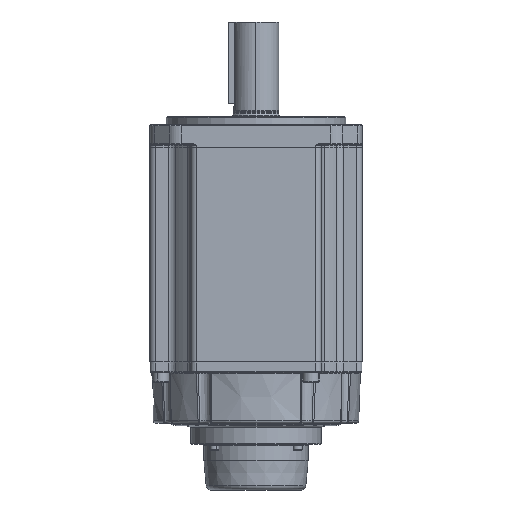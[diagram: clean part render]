
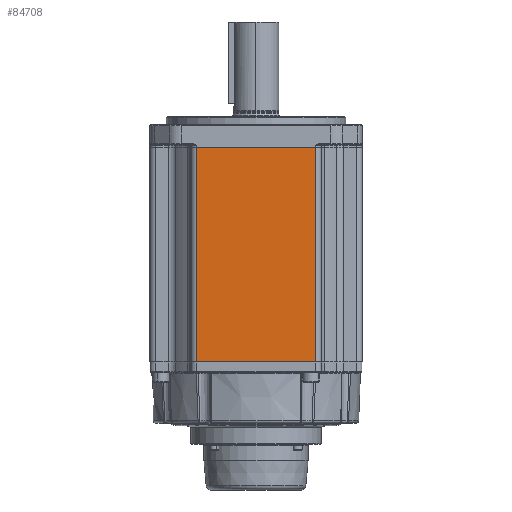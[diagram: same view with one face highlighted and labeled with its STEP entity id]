
A CAD part, front view. The second image highlights one B-rep face of the part: STEP entity #84708.
In plain terms, the highlighted planar face has unit normal (0, -1, 0).
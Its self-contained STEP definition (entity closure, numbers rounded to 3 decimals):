
#1388 = DIRECTION ( 'NONE',  ( -1., 0., 0. ) ) ;
#2490 = EDGE_CURVE ( 'NONE', #43472, #35393, #47443, .T. ) ;
#5963 = ORIENTED_EDGE ( 'NONE', *, *, #104999, .F. ) ;
#8336 = CARTESIAN_POINT ( 'NONE',  ( -36.401, -65., 131.4 ) ) ;
#17876 = VECTOR ( 'NONE', #37680, 1000. ) ;
#21148 = VECTOR ( 'NONE', #43079, 1000. ) ;
#27608 = CARTESIAN_POINT ( 'NONE',  ( 36.401, -65., 131.4 ) ) ;
#30466 = PLANE ( 'NONE',  #111871 ) ;
#32279 = FACE_OUTER_BOUND ( 'NONE', #40177, .T. ) ;
#32415 = ORIENTED_EDGE ( 'NONE', *, *, #72131, .F. ) ;
#35393 = VERTEX_POINT ( 'NONE', #8336 ) ;
#36154 = DIRECTION ( 'NONE',  ( 0., 0., -1. ) ) ;
#37680 = DIRECTION ( 'NONE',  ( -1., 0., 0. ) ) ;
#40177 = EDGE_LOOP ( 'NONE', ( #5963, #32415, #42121, #50103 ) ) ;
#42121 = ORIENTED_EDGE ( 'NONE', *, *, #2490, .T. ) ;
#42670 = CARTESIAN_POINT ( 'NONE',  ( 36.401, -65., 131.4 ) ) ;
#43079 = DIRECTION ( 'NONE',  ( 0., 0., -1. ) ) ;
#43472 = VERTEX_POINT ( 'NONE', #42670 ) ;
#44090 = CARTESIAN_POINT ( 'NONE',  ( -36.401, -65., 0. ) ) ;
#44710 = CARTESIAN_POINT ( 'NONE',  ( 36.401, -65., 0. ) ) ;
#46386 = VECTOR ( 'NONE', #36154, 1000. ) ;
#47443 = LINE ( 'NONE', #84338, #98554 ) ;
#48602 = CARTESIAN_POINT ( 'NONE',  ( 0., -65., 131.4 ) ) ;
#50103 = ORIENTED_EDGE ( 'NONE', *, *, #71782, .T. ) ;
#60231 = VERTEX_POINT ( 'NONE', #44710 ) ;
#65491 = CARTESIAN_POINT ( 'NONE',  ( 0., -65., 0. ) ) ;
#71782 = EDGE_CURVE ( 'NONE', #35393, #90339, #73268, .T. ) ;
#72131 = EDGE_CURVE ( 'NONE', #43472, #60231, #90555, .T. ) ;
#73268 = LINE ( 'NONE', #91392, #21148 ) ;
#84338 = CARTESIAN_POINT ( 'NONE',  ( 0., -65., 131.4 ) ) ;
#84708 = ADVANCED_FACE ( 'NONE', ( #32279 ), #30466, .T. ) ;
#86089 = DIRECTION ( 'NONE',  ( 0., 0., -1. ) ) ;
#90339 = VERTEX_POINT ( 'NONE', #44090 ) ;
#90555 = LINE ( 'NONE', #27608, #46386 ) ;
#91392 = CARTESIAN_POINT ( 'NONE',  ( -36.401, -65., 131.4 ) ) ;
#98554 = VECTOR ( 'NONE', #1388, 1000. ) ;
#104999 = EDGE_CURVE ( 'NONE', #60231, #90339, #111969, .T. ) ;
#111871 = AXIS2_PLACEMENT_3D ( 'NONE', #48602, #113268, #86089 ) ;
#111969 = LINE ( 'NONE', #65491, #17876 ) ;
#113268 = DIRECTION ( 'NONE',  ( 0., -1., 0. ) ) ;
